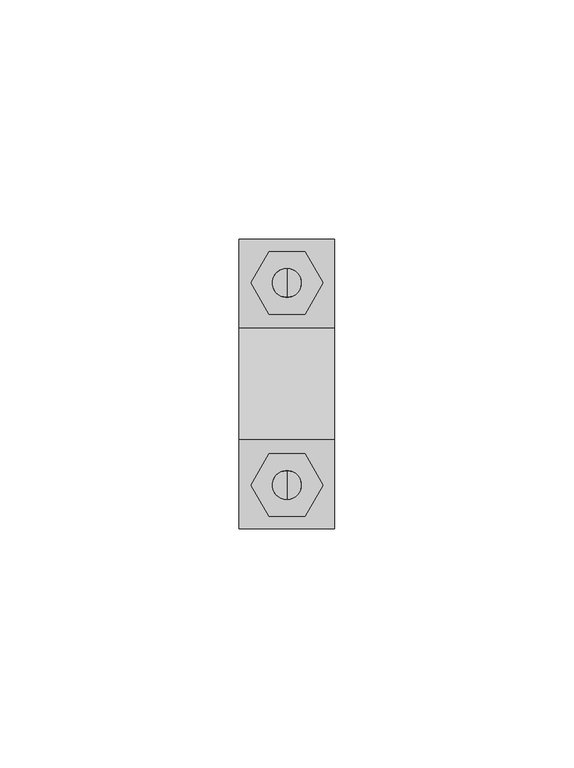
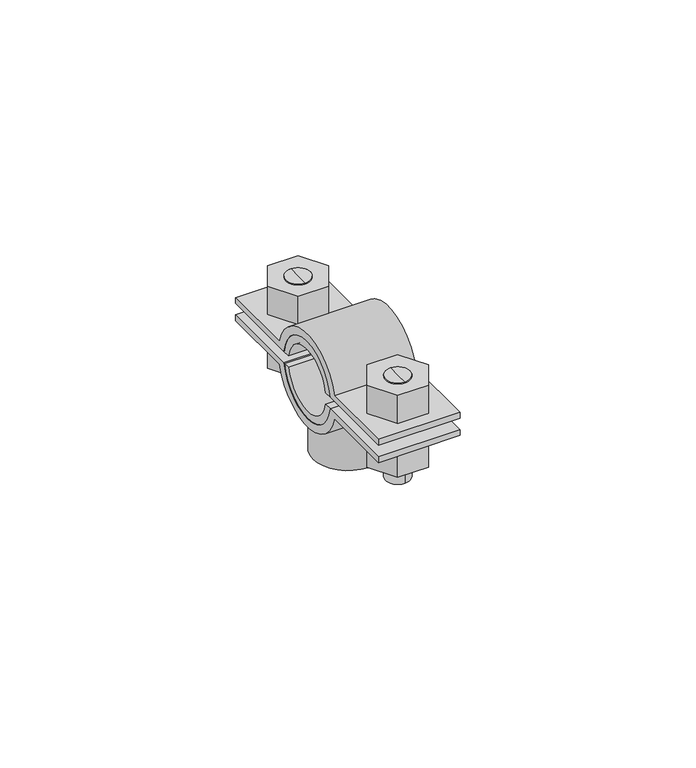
"""IFC4 building model written with IfcOpenShell, lengths in millimetres: valve geometry, Superfix DG2 Clamp (based on pipe) : Superfix DG2 Clamp (based on pipe)."""

from ifc_helpers import new_model, si_unit, point, frame, frame_2d, origin, origin_2d, place, context, project, spatial, polyline, circle_curve, trimmed, segment, composite_curve, outline, extrude, source, transform, mapped, element, save
from ifc_brep_helpers import plane_surface, cylinder_surface, advanced_brep


def valve_156802b2(model_context):
    return source(origin(), model_context, "Body", "SolidModel", [
        advanced_brep(
        [(0.0, 24.125, 342.9002332), (0.0, 18.125, 342.9002332), (0.0, 18.125, 357.0002332), (0.0, 24.125, 357.0002332), (0.0, 21.125, 342.9002332)],
        [
            (0, 1, circle_curve(frame((0.0, 21.125, 342.9002332), z_axis=(0.0, 0.0, 1.0), x_axis=(0.0, 1.0, 0.0)), 3.0)),
            (1, 2),
            (2, 3, circle_curve(frame((0.0, 21.125, 357.0002332), z_axis=(0.0, 0.0, -1.0), x_axis=(0.0, 1.0, 0.0)), 3.0)),
            (3, 0),
            (1, 0, circle_curve(frame((0.0, 21.125, 342.9002332), z_axis=(0.0, 0.0, 1.0), x_axis=(0.0, 1.0, 0.0)), 3.0)),
            (3, 2, circle_curve(frame((0.0, 21.125, 357.0002332), z_axis=(0.0, 0.0, -1.0), x_axis=(0.0, 1.0, 0.0)), 3.0)),
            (0, 4),
            (4, 1),
        ],
        [
            cylinder_surface(frame((0.0, 21.125, 356.7808426), z_axis=(0.0, 0.0, 1.0), x_axis=(0.0, 1.0, 0.0)), 3.0),
            plane_surface(frame((0.0, 21.125, 342.9002332), z_axis=(0.0, 0.0, -1.0), x_axis=(0.0, 1.0, 0.0))),
            plane_surface(frame((13.75, -30.25, 357.0002332), z_axis=(0.0, 0.0, 1.0), x_axis=(-1.0, 0.0, 0.0))),
        ],
        [
            (0, [[1, 2, 3, 4]]),
            (0, [[5, -4, 6, -2]]),
            (1, [[-1, 7, 8]]),
            (1, [[-5, -8, -7]]),
            (2, [[-3, -6]]),
        ],
    ),
        advanced_brep(
        [(0.0, 18.125, 369.1002332), (0.0, 24.125, 369.1002332), (0.0, 24.125, 360.0002332), (0.0, 18.125, 360.0002332), (0.0, 21.125, 369.1002332)],
        [
            (0, 1, circle_curve(frame((0.0, 21.125, 369.1002332), z_axis=(0.0, 0.0, -1.0), x_axis=(0.0, 1.0, 0.0)), 3.0)),
            (1, 2),
            (2, 3, circle_curve(frame((0.0, 21.125, 360.0002332), z_axis=(0.0, 0.0, 1.0), x_axis=(0.0, 1.0, 0.0)), 3.0)),
            (3, 0),
            (1, 0, circle_curve(frame((0.0, 21.125, 369.1002332), z_axis=(0.0, 0.0, -1.0), x_axis=(0.0, 1.0, 0.0)), 3.0)),
            (3, 2, circle_curve(frame((0.0, 21.125, 360.0002332), z_axis=(0.0, 0.0, 1.0), x_axis=(0.0, 1.0, 0.0)), 3.0)),
            (0, 4),
            (4, 1),
        ],
        [
            cylinder_surface(frame((0.0, 21.125, 356.7808426), z_axis=(0.0, 0.0, 1.0), x_axis=(0.0, 1.0, 0.0)), 3.0),
            plane_surface(frame((0.0, 21.125, 369.1002332), z_axis=(0.0, 0.0, 1.0), x_axis=(0.0, 1.0, 0.0))),
            plane_surface(frame((13.75, 30.25, 360.0002332), z_axis=(0.0, 0.0, -1.0), x_axis=(-1.0, 0.0, 0.0))),
        ],
        [
            (0, [[1, 2, 3, 4]]),
            (0, [[5, -4, 6, -2]]),
            (1, [[-1, 7, 8]]),
            (1, [[-5, -8, -7]]),
            (2, [[-3, -6]]),
        ],
    ),
        advanced_brep(
        [(0.0, -24.125, 369.1002332), (0.0, -18.125, 369.1002332), (0.0, -18.125, 360.0002332), (0.0, -24.125, 360.0002332), (0.0, -21.125, 369.1002332)],
        [
            (0, 1, circle_curve(frame((0.0, -21.125, 369.1002332), z_axis=(0.0, 0.0, -1.0), x_axis=(0.0, -1.0, 0.0)), 3.0)),
            (1, 2),
            (2, 3, circle_curve(frame((0.0, -21.125, 360.0002332), z_axis=(0.0, 0.0, 1.0), x_axis=(0.0, -1.0, 0.0)), 3.0)),
            (3, 0),
            (1, 0, circle_curve(frame((0.0, -21.125, 369.1002332), z_axis=(0.0, 0.0, -1.0), x_axis=(0.0, -1.0, 0.0)), 3.0)),
            (3, 2, circle_curve(frame((0.0, -21.125, 360.0002332), z_axis=(0.0, 0.0, 1.0), x_axis=(0.0, -1.0, 0.0)), 3.0)),
            (0, 4),
            (4, 1),
        ],
        [
            cylinder_surface(frame((0.0, -21.125, 356.7808426), z_axis=(0.0, 0.0, -1.0), x_axis=(0.0, -1.0, 0.0)), 3.0),
            plane_surface(frame((0.0, -21.125, 369.1002332), z_axis=(0.0, 0.0, 1.0), x_axis=(0.0, -1.0, 0.0))),
            plane_surface(frame((13.75, 30.25, 360.0002332), z_axis=(0.0, 0.0, -1.0), x_axis=(-1.0, 0.0, 0.0))),
        ],
        [
            (0, [[1, 2, 3, 4]]),
            (0, [[5, -4, 6, -2]]),
            (1, [[-1, 7, 8]]),
            (1, [[-5, -8, -7]]),
            (2, [[-3, -6]]),
        ],
    ),
        advanced_brep(
        [(0.0, -18.125, 342.9002332), (0.0, -24.125, 342.9002332), (0.0, -24.125, 357.0002332), (0.0, -18.125, 357.0002332), (0.0, -21.125, 342.9002332)],
        [
            (0, 1, circle_curve(frame((0.0, -21.125, 342.9002332), z_axis=(0.0, 0.0, 1.0), x_axis=(0.0, -1.0, 0.0)), 3.0)),
            (1, 2),
            (2, 3, circle_curve(frame((0.0, -21.125, 357.0002332), z_axis=(0.0, 0.0, -1.0), x_axis=(0.0, -1.0, 0.0)), 3.0)),
            (3, 0),
            (1, 0, circle_curve(frame((0.0, -21.125, 342.9002332), z_axis=(0.0, 0.0, 1.0), x_axis=(0.0, -1.0, 0.0)), 3.0)),
            (3, 2, circle_curve(frame((0.0, -21.125, 357.0002332), z_axis=(0.0, 0.0, -1.0), x_axis=(0.0, -1.0, 0.0)), 3.0)),
            (0, 4),
            (4, 1),
        ],
        [
            cylinder_surface(frame((0.0, -21.125, 356.7808426), z_axis=(0.0, 0.0, -1.0), x_axis=(0.0, -1.0, 0.0)), 3.0),
            plane_surface(frame((0.0, -21.125, 342.9002332), z_axis=(0.0, 0.0, -1.0), x_axis=(0.0, -1.0, 0.0))),
            plane_surface(frame((13.75, -30.25, 357.0002332), z_axis=(0.0, 0.0, 1.0), x_axis=(-1.0, 0.0, 0.0))),
        ],
        [
            (0, [[1, 2, 3, 4]]),
            (0, [[5, -4, 6, -2]]),
            (1, [[-1, 7, 8]]),
            (1, [[-5, -8, -7]]),
            (2, [[-3, -6]]),
        ],
    ),
        extrude(outline(composite_curve([segment(trimmed(circle_curve(frame_2d((0.0, 358.5002332)), 10.0), [point((-9.88686, 357.0002332))], [point((9.88686, 357.0002332))], True, "CARTESIAN"), True, "CONTINUOUS"), segment(polyline([(9.88686, 357.0002332), (30.25, 357.0002332), (30.25, 355.5002332), (11.61895, 355.5002332)]), True, "CONTINUOUS"), segment(trimmed(circle_curve(frame_2d((0.0, 358.5002332)), 12.0), [point((11.61895, 355.5002332))], [point((-11.61895, 355.5002332))], False, "CARTESIAN"), True, "CONTINUOUS"), segment(polyline([(-11.61895, 355.5002332), (-30.25, 355.5002332), (-30.25, 357.0002332), (-9.88686, 357.0002332)]), True, "CONTINUOUS")], self_intersect=False)), frame((-10.0, 0.0, 0.0), z_axis=(1.0, 0.0, 0.0), x_axis=(0.0, 1.0, 0.0)), (0.0, 0.0, 1.0), 20.0),
        extrude(outline(composite_curve([segment(trimmed(circle_curve(frame_2d((0.0, 358.5002332)), 10.0), [point((9.88686, 360.0002332))], [point((-9.88686, 360.0002332))], True, "CARTESIAN"), True, "CONTINUOUS"), segment(polyline([(-9.88686, 360.0002332), (-30.25, 360.0002332), (-30.25, 361.5002332), (-11.61895, 361.5002332)]), True, "CONTINUOUS"), segment(trimmed(circle_curve(frame_2d((0.0, 358.5002332)), 12.0), [point((-11.61895, 361.5002332))], [point((11.61895, 361.5002332))], False, "CARTESIAN"), True, "CONTINUOUS"), segment(polyline([(11.61895, 361.5002332), (30.25, 361.5002332), (30.25, 360.0002332), (9.88686, 360.0002332)]), True, "CONTINUOUS")], self_intersect=False)), frame((-10.0, 0.0, 0.0), z_axis=(1.0, 0.0, 0.0), x_axis=(0.0, 1.0, 0.0)), (0.0, 0.0, 1.0), 20.0),
        extrude(outline(polyline([(7.5055535, -21.125), (3.7527767, -27.625), (-3.7527767, -27.625), (-7.5055535, -21.125), (-3.7527767, -14.625), (3.7527767, -14.625), (7.5055535, -21.125)]), holes=[composite_curve([segment(trimmed(circle_curve(frame_2d((0.0, -21.125)), 3.0), [point((3.0, -21.125))], [point((-3.0, -21.125))], True, "CARTESIAN"), True, "CONTINUOUS"), segment(trimmed(circle_curve(frame_2d((0.0, -21.125)), 3.0), [point((-3.0, -21.125))], [point((3.0, -21.125))], True, "CARTESIAN"), True, "CONTINUOUS")], self_intersect=False)]), frame((0.0, 0.0, 361.5002332), z_axis=(0.0, 0.0, 1.0), x_axis=(1.0, 0.0, 0.0)), (0.0, 0.0, 1.0), 7.6),
        extrude(outline(polyline([(7.5055535, 21.125), (3.7527767, 14.625), (-3.7527767, 14.625), (-7.5055535, 21.125), (-3.7527767, 27.625), (3.7527767, 27.625), (7.5055535, 21.125)]), holes=[composite_curve([segment(trimmed(circle_curve(frame_2d((0.0, 21.125)), 3.0), [point((3.0, 21.125))], [point((-3.0, 21.125))], True, "CARTESIAN"), True, "CONTINUOUS"), segment(trimmed(circle_curve(frame_2d((0.0, 21.125)), 3.0), [point((-3.0, 21.125))], [point((3.0, 21.125))], True, "CARTESIAN"), True, "CONTINUOUS")], self_intersect=False)]), frame((0.0, 0.0, 361.5002332), z_axis=(0.0, 0.0, 1.0), x_axis=(1.0, 0.0, 0.0)), (0.0, 0.0, 1.0), 7.6),
        extrude(outline(polyline([(7.5055535, -21.125), (3.7527767, -27.625), (-3.7527767, -27.625), (-7.5055535, -21.125), (-3.7527767, -14.625), (3.7527767, -14.625), (7.5055535, -21.125)]), holes=[composite_curve([segment(trimmed(circle_curve(frame_2d((0.0, -21.125)), 3.0), [point((3.0, -21.125))], [point((-3.0, -21.125))], True, "CARTESIAN"), True, "CONTINUOUS"), segment(trimmed(circle_curve(frame_2d((0.0, -21.125)), 3.0), [point((-3.0, -21.125))], [point((3.0, -21.125))], True, "CARTESIAN"), True, "CONTINUOUS")], self_intersect=False)]), frame((0.0, 0.0, 347.9002332), z_axis=(0.0, 0.0, 1.0), x_axis=(1.0, 0.0, 0.0)), (0.0, 0.0, 1.0), 7.6),
        extrude(outline(polyline([(7.5055535, 21.125), (3.7527767, 14.625), (-3.7527767, 14.625), (-7.5055535, 21.125), (-3.7527767, 27.625), (3.7527767, 27.625), (7.5055535, 21.125)]), holes=[composite_curve([segment(trimmed(circle_curve(frame_2d((0.0, 21.125)), 3.0), [point((3.0, 21.125))], [point((-3.0, 21.125))], True, "CARTESIAN"), True, "CONTINUOUS"), segment(trimmed(circle_curve(frame_2d((0.0, 21.125)), 3.0), [point((-3.0, 21.125))], [point((3.0, 21.125))], True, "CARTESIAN"), True, "CONTINUOUS")], self_intersect=False)]), frame((0.0, 0.0, 347.9002332), z_axis=(0.0, 0.0, 1.0), x_axis=(1.0, 0.0, 0.0)), (0.0, 0.0, 1.0), 7.6),
        extrude(outline(composite_curve([segment(trimmed(circle_curve(origin_2d(), 8.5), [point((0.0, 8.5))], [point((0.0, -8.5))], False, "CARTESIAN"), True, "CONTINUOUS"), segment(trimmed(circle_curve(origin_2d(), 8.5), [point((0.0, -8.5))], [point((0.0, 8.5))], False, "CARTESIAN"), True, "CONTINUOUS")], self_intersect=False), holes=[composite_curve([segment(trimmed(circle_curve(origin_2d(), 5.0), [point((0.0, 5.0))], [point((0.0, -5.0))], True, "CARTESIAN"), True, "CONTINUOUS"), segment(trimmed(circle_curve(origin_2d(), 5.0), [point((0.0, -5.0))], [point((0.0, 5.0))], True, "CARTESIAN"), True, "CONTINUOUS")], self_intersect=False)]), frame((0.0, 0.0, 337.5002332), z_axis=(0.0, 0.0, 1.0), x_axis=(1.0, 0.0, 0.0)), (0.0, 0.0, 1.0), 11.5),
        extrude(outline(composite_curve([segment(trimmed(circle_curve(frame_2d((0.0, 358.5002332)), 8.0), [point((7.8581168, 360.0002332))], [point((-7.8581168, 360.0002332))], True, "CARTESIAN"), True, "CONTINUOUS"), segment(polyline([(-7.8581168, 360.0002332), (-9.88686, 360.0002332)]), True, "CONTINUOUS"), segment(trimmed(circle_curve(frame_2d((0.0, 358.5002332)), 10.0), [point((-9.88686, 360.0002332))], [point((9.88686, 360.0002332))], False, "CARTESIAN"), True, "CONTINUOUS"), segment(polyline([(9.88686, 360.0002332), (7.8581168, 360.0002332)]), True, "CONTINUOUS")], self_intersect=False)), frame((-10.0, 0.0, 0.0), z_axis=(1.0, 0.0, 0.0), x_axis=(0.0, 1.0, 0.0)), (0.0, 0.0, 1.0), 20.0),
        extrude(outline(composite_curve([segment(polyline([(7.8581168, 357.0002332), (9.88686, 357.0002332)]), True, "CONTINUOUS"), segment(trimmed(circle_curve(frame_2d((0.0, 358.5002332)), 10.0), [point((9.88686, 357.0002332))], [point((-9.88686, 357.0002332))], False, "CARTESIAN"), True, "CONTINUOUS"), segment(polyline([(-9.88686, 357.0002332), (-7.8581168, 357.0002332)]), True, "CONTINUOUS"), segment(trimmed(circle_curve(frame_2d((0.0, 358.5002332)), 8.0), [point((-7.8581168, 357.0002332))], [point((7.8581168, 357.0002332))], True, "CARTESIAN"), True, "CONTINUOUS")], self_intersect=False)), frame((-10.0, 0.0, 0.0), z_axis=(1.0, 0.0, 0.0), x_axis=(0.0, 1.0, 0.0)), (0.0, 0.0, 1.0), 20.0),
    ])


if __name__ == "__main__":
    model = new_model("IFC4")
    model_context = context("Model", 3, world=origin())
    ifc_project = project(units=[si_unit("LENGTHUNIT", "METRE", prefix="MILLI")], contexts=[model_context])
    site = spatial("IfcSite", under=ifc_project)
    building = spatial("IfcBuilding", under=site)
    placement = place(None, origin())
    valve_shape = valve_156802b2(model_context)
    element("IfcValve", 1, ObjectType="Superfix DG2 Clamp (based on pipe) : Superfix DG2 Clamp (based on pipe)", at=placement, inside=building, context=model_context, shape_type="MappedRepresentation", body=[
        mapped(valve_shape, transform((0.0, 0.0, 0.0), x_axis=(1.0, 0.0, 0.0), y_axis=(0.0, 1.0, 0.0), z_axis=(0.0, 0.0, 1.0))),
    ])
    save(model, "model.ifc")
